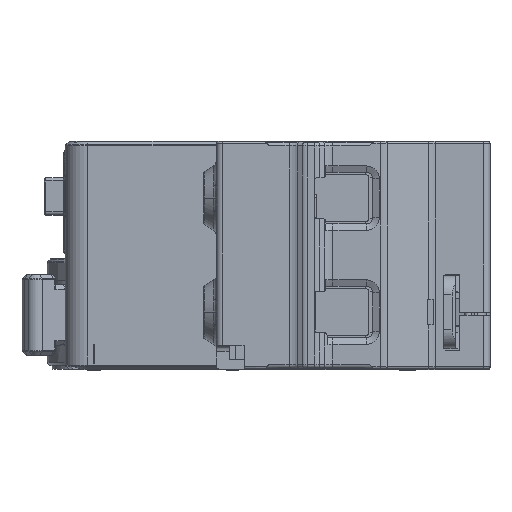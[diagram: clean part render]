
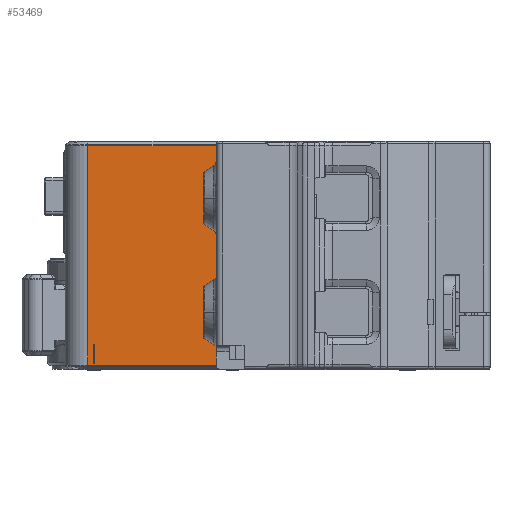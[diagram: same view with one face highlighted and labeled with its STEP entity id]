
A CAD part, top view. The second image highlights one B-rep face of the part: STEP entity #53469.
In plain terms, the highlighted planar face has unit normal (0, 0, 1).
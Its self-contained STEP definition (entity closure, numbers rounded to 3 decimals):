
#3392=DIRECTION('',(0.,1.,0.));
#3393=VECTOR('',#3392,34.09);
#3394=CARTESIAN_POINT('',(26.31,0.655,-19.6));
#3395=LINE('',#3394,#3393);
#3448=DIRECTION('',(1.,0.,0.));
#3449=VECTOR('',#3448,19.);
#3450=CARTESIAN_POINT('',(7.31,0.655,-19.6));
#3451=LINE('',#3450,#3449);
#3452=DIRECTION('',(0.,1.,0.));
#3453=VECTOR('',#3452,3.195);
#3454=CARTESIAN_POINT('',(7.31,0.655,-19.6));
#3455=LINE('',#3454,#3453);
#3456=DIRECTION('',(-1.,0.,0.));
#3457=VECTOR('',#3456,0.05);
#3458=CARTESIAN_POINT('',(7.31,3.85,-19.6));
#3459=LINE('',#3458,#3457);
#3460=DIRECTION('',(0.,1.,0.));
#3461=VECTOR('',#3460,3.195);
#3462=CARTESIAN_POINT('',(7.26,0.655,-19.6));
#3463=LINE('',#3462,#3461);
#3464=DIRECTION('',(-1.,0.,0.));
#3465=VECTOR('',#3464,0.95);
#3466=CARTESIAN_POINT('',(7.26,0.655,-19.6));
#3467=LINE('',#3466,#3465);
#3468=DIRECTION('',(0.,1.,0.));
#3469=VECTOR('',#3468,34.09);
#3470=CARTESIAN_POINT('',(6.31,0.655,-19.6));
#3471=LINE('',#3470,#3469);
#3472=DIRECTION('',(-1.,0.,0.));
#3473=VECTOR('',#3472,20.);
#3474=CARTESIAN_POINT('',(26.31,34.745,-19.6));
#3475=LINE('',#3474,#3473);
#5810=CARTESIAN_POINT('',(7.26,0.655,-19.6));
#5828=CARTESIAN_POINT('',(7.31,0.655,-19.6));
#40095=VERTEX_POINT('',#5828);
#40096=CARTESIAN_POINT('',(26.31,0.655,-19.6));
#40097=VERTEX_POINT('',#40096);
#43841=CARTESIAN_POINT('',(6.31,0.655,-19.6));
#43842=VERTEX_POINT('',#43841);
#43843=VERTEX_POINT('',#5810);
#43893=CARTESIAN_POINT('',(7.26,3.85,-19.6));
#43894=VERTEX_POINT('',#43893);
#43895=CARTESIAN_POINT('',(6.31,34.745,-19.6));
#43896=VERTEX_POINT('',#43895);
#44364=CARTESIAN_POINT('',(7.31,3.85,-19.6));
#44366=VERTEX_POINT('',#44364);
#49126=CARTESIAN_POINT('',(26.31,34.745,-19.6));
#49127=VERTEX_POINT('',#49126);
#53447=CARTESIAN_POINT('',(3.31,0.,-19.6));
#53448=DIRECTION('',(0.,0.,1.));
#53449=DIRECTION('',(1.,0.,0.));
#53450=AXIS2_PLACEMENT_3D('',#53447,#53448,#53449);
#53451=PLANE('',#53450);
#53452=ORIENTED_EDGE('',*,*,#53401,.F.);
#53454=ORIENTED_EDGE('',*,*,#53453,.F.);
#53456=ORIENTED_EDGE('',*,*,#53455,.T.);
#53458=ORIENTED_EDGE('',*,*,#53457,.T.);
#53460=ORIENTED_EDGE('',*,*,#53459,.F.);
#53462=ORIENTED_EDGE('',*,*,#53461,.T.);
#53464=ORIENTED_EDGE('',*,*,#53463,.T.);
#53466=ORIENTED_EDGE('',*,*,#53465,.F.);
#53467=EDGE_LOOP('',(#53452,#53454,#53456,#53458,#53460,#53462,#53464,#53466));
#53468=FACE_OUTER_BOUND('',#53467,.F.);
#53469=ADVANCED_FACE('',(#53468),#53451,.T.);
#53401=EDGE_CURVE('',#40097,#49127,#3395,.T.);
#53453=EDGE_CURVE('',#40095,#40097,#3451,.T.);
#53455=EDGE_CURVE('',#40095,#44366,#3455,.T.);
#53457=EDGE_CURVE('',#44366,#43894,#3459,.T.);
#53459=EDGE_CURVE('',#43843,#43894,#3463,.T.);
#53461=EDGE_CURVE('',#43843,#43842,#3467,.T.);
#53463=EDGE_CURVE('',#43842,#43896,#3471,.T.);
#53465=EDGE_CURVE('',#49127,#43896,#3475,.T.);
